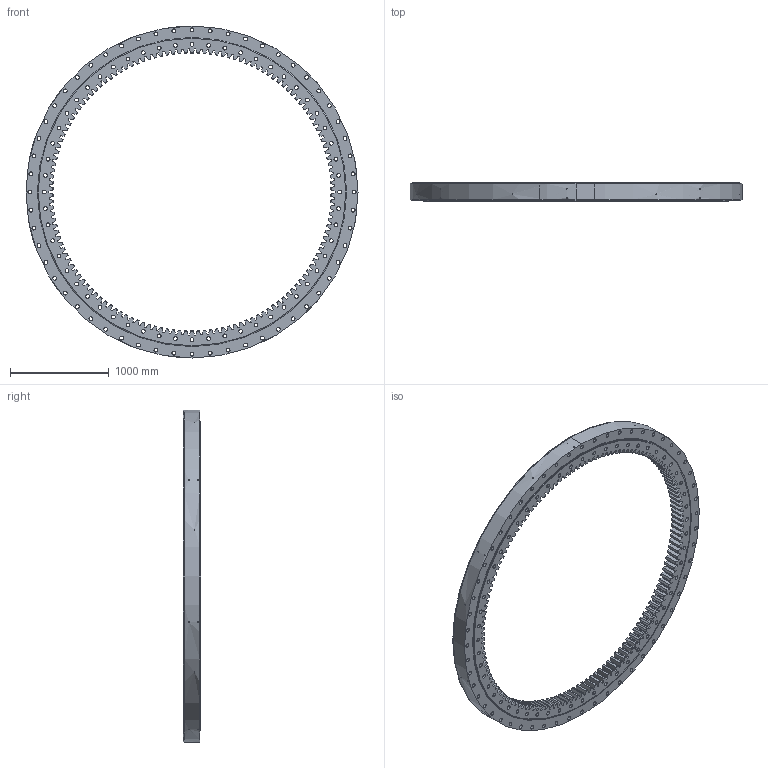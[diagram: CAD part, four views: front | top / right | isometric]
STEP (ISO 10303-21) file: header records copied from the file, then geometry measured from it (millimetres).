
FILE_DESCRIPTION (( 'STEP AP214' ), '1' );
FILE_NAME ('SM3332-1-3368AA.STEP', '2022-11-24T07:52:40', ( '' ), ( '' ), 'SwSTEP 2.0', 'SolidWorks 2020', '' );
FILE_SCHEMA (( 'AUTOMOTIVE_DESIGN' ));
Length unit declared in the file: millimetre
Products named in the file (1): SM3332-1-3368AA
Bounding box: 3368 x 182 x 3368 mm (x, y, z)
Volume: 370836643.2 mm3; surface area: 17623538.1 mm2
Topology: 5 solids, 5 shells, 1445 faces, 4150 edges, 2763 vertices
Faces by surface type: plane 626, cylinder 521, cone 298
Entity records: 52079 total; most frequent: CARTESIAN_POINT 14825, ORIENTED_EDGE 8300, DIRECTION 7025, EDGE_CURVE 4150, VERTEX_POINT 2763, AXIS2_PLACEMENT_3D 2677, EDGE_LOOP 1769, LINE 1671
